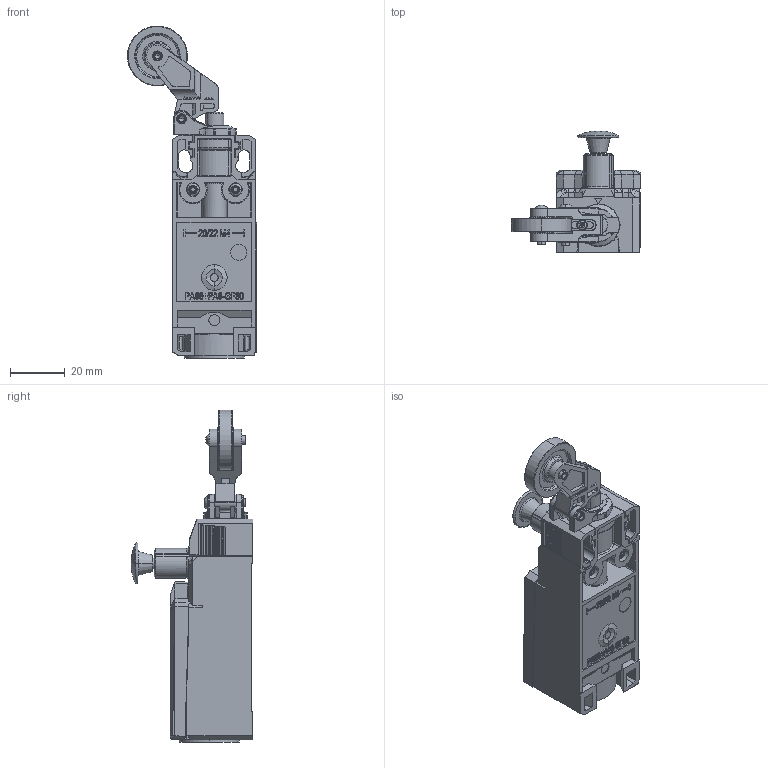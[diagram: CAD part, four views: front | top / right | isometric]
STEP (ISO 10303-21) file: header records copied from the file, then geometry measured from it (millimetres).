
FILE_DESCRIPTION((''),'2;1');
FILE_NAME('I81-DGKK','2017-02-07T',('Yvonne.Storm'),(''),'PRO/ENGINEER BY PARAMETRIC TECHNOLOGY CORPORATION, 2012360','PRO/ENGINEER BY PARAMETRIC TECHNOLOGY CORPORATION, 2012360','');
FILE_SCHEMA(('AUTOMOTIVE_DESIGN { 1 0 10303 214 1 1 1 1 }'));
Products named in the file (1): I81-DGKK
Bounding box: 47.37 x 44.53 x 121.85 mm (x, y, z)
Volume: 36552.9 mm3; surface area: 32903.7 mm2
Topology: 3 solids, 4 shells, 2372 faces, 6424 edges, 4082 vertices
Faces by surface type: plane 1225, cylinder 530, extrusion 253, cone 111, torus 105, sphere 78, bspline 70
Entity records: 127267 total; most frequent: CARTESIAN_POINT 22755, ORIENTED_EDGE 12812, DIRECTION 11043, PRESENTATION_STYLE_ASSIGNMENT 9034, STYLED_ITEM 6662, CURVE_STYLE 6659, EDGE_CURVE 6406, FILL_AREA_STYLE_COLOUR 4217
